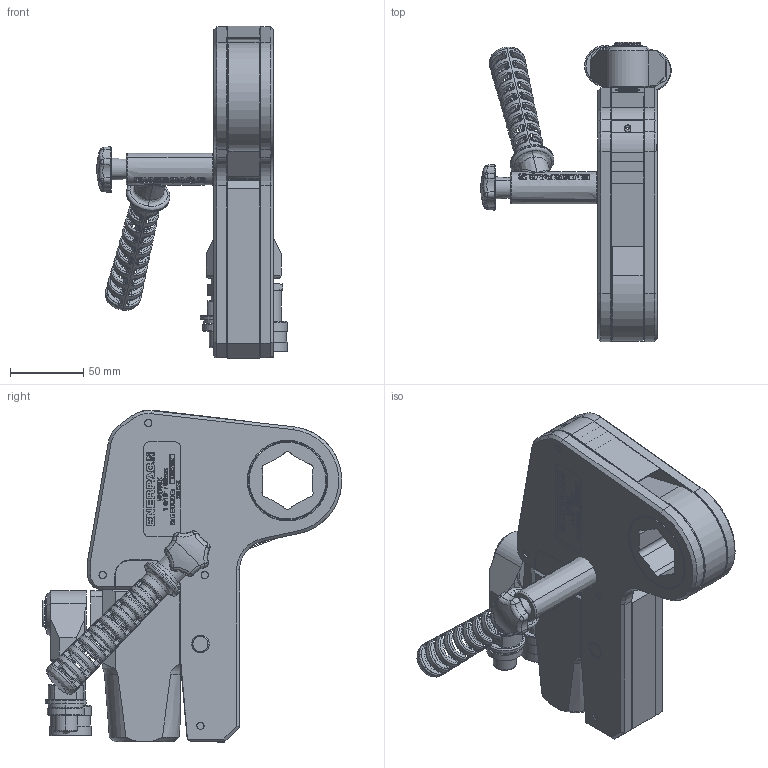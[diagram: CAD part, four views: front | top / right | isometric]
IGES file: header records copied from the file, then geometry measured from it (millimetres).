
Start section:  PTC IGES file: w4105x_with_w4000x.igs
Global section: file name: w4105x_with_w4000x.igs; native system: Creo Parametric by Parametric Technology Corporation; preprocessor: 2014200; author: david.cox; organization: Unknown; date: 20150331.122424; units: millimetre
Bounding box: 130 x 204.44 x 226.64 mm (x, y, z)
Surface area: 166798.9 mm2 (no closed solid volume)
Topology: 0 solids, 0 shells, 819 faces, 6321 edges, 6313 vertices
Faces by surface type: bspline 501, revolution 318
